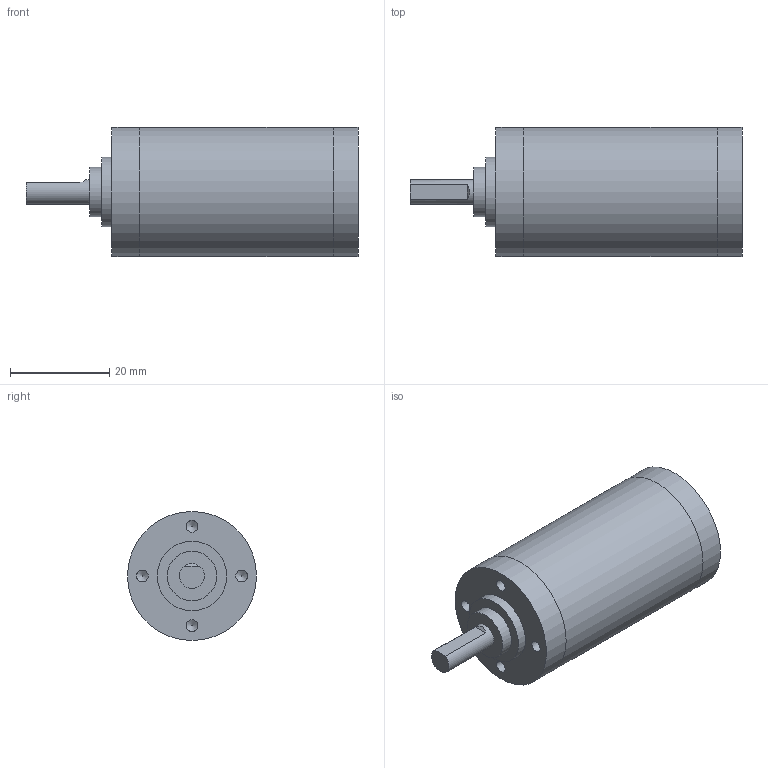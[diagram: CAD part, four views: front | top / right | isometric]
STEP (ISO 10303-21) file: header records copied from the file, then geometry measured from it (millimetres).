
FILE_DESCRIPTION(('Bauteilbeschreibung','HiCAD-Model','HiCAD-STEP-TRANSLATION','Bauteilbeschreibung'),'2;1');
FILE_NAME('P:/PRIVAT/BJA/KATOLOG_STEP_DATEIEN/GP26B/GP26B_4-STUFIG.STP','2004-12-08T13:51:48+00:00',('Konstrukteur'),('Konstrukteur Firma GmbH'),'HiCAD2 V1102 STEP 20.9.2001','HiCAD2 V1102','confidential');
FILE_SCHEMA(('AUTOMOTIVE_DESIGN { 1 2 10303 214 0 1 1 1 }'));
Length unit declared in the file: millimetre
Products named in the file (2): A01_000X; A010000X
Assembly tree (1 placements, depth 2):
  A01_000X
    A010000X
Bounding box: 66.9 x 26 x 26 mm (x, y, z)
Volume: 26256.3 mm3; surface area: 6000 mm2
Topology: 1 solids, 1 shells, 33 faces, 61 edges, 41 vertices
Faces by surface type: plane 15, cylinder 14, cone 4
Full cylindrical faces by diameter (mm): 2.1 x3, 2.39 x4, 5 x1, 10 x2, 14 x1, 26 x3
Entity records: 1158 total; most frequent: DIRECTION 136, CARTESIAN_POINT 103, ORIENTED_EDGE 70, COLOUR_RGB 69, PRESENTATION_STYLE_ASSIGNMENT 69, OVER_RIDING_STYLED_ITEM 68, AXIS2_PLACEMENT_3D 66, EDGE_LOOP 62
